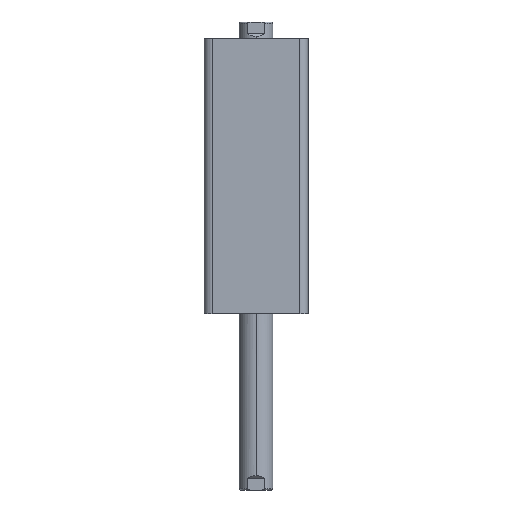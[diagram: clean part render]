
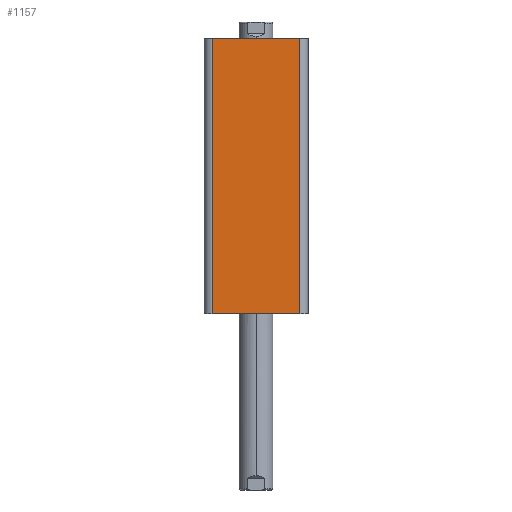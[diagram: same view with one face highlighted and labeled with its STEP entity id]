
A CAD part, left-side view. The second image highlights one B-rep face of the part: STEP entity #1157.
In plain terms, the highlighted planar face has unit normal (-1, 0, 0).
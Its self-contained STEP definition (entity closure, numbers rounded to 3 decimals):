
#165 = FACE_OUTER_BOUND ( 'NONE', #2868, .T. ) ;
#333 = DIRECTION ( 'NONE',  ( 0., 1., 0. ) ) ;
#337 = PLANE ( 'NONE',  #1997 ) ;
#341 = DIRECTION ( 'NONE',  ( 1., 0., 0. ) ) ;
#360 = CARTESIAN_POINT ( 'NONE',  ( -31., 31., 164. ) ) ;
#374 = CARTESIAN_POINT ( 'NONE',  ( -31., -26., 0. ) ) ;
#375 = CARTESIAN_POINT ( 'NONE',  ( -31., -26., 164. ) ) ;
#381 = CARTESIAN_POINT ( 'NONE',  ( -31., 26., 0. ) ) ;
#388 = CARTESIAN_POINT ( 'NONE',  ( -31., 26., 164. ) ) ;
#676 = LINE ( 'NONE', #1592, #685 ) ;
#680 = LINE ( 'NONE', #1603, #683 ) ;
#683 = VECTOR ( 'NONE', #1604, 1000. ) ;
#684 = LINE ( 'NONE', #1606, #687 ) ;
#685 = VECTOR ( 'NONE', #1605, 1000. ) ;
#686 = LINE ( 'NONE', #1608, #689 ) ;
#687 = VECTOR ( 'NONE', #1607, 1000. ) ;
#689 = VECTOR ( 'NONE', #1609, 1000. ) ;
#786 = ORIENTED_EDGE ( 'NONE', *, *, #2537, .T. ) ;
#787 = ORIENTED_EDGE ( 'NONE', *, *, #2538, .T. ) ;
#788 = ORIENTED_EDGE ( 'NONE', *, *, #2539, .F. ) ;
#789 = ORIENTED_EDGE ( 'NONE', *, *, #2540, .T. ) ;
#1044 = VERTEX_POINT ( 'NONE', #381 ) ;
#1047 = VERTEX_POINT ( 'NONE', #388 ) ;
#1050 = VERTEX_POINT ( 'NONE', #375 ) ;
#1051 = VERTEX_POINT ( 'NONE', #374 ) ;
#1157 = ADVANCED_FACE ( 'NONE', ( #165 ), #337, .F. ) ;
#1592 = CARTESIAN_POINT ( 'NONE',  ( -31., -26., 164. ) ) ;
#1603 = CARTESIAN_POINT ( 'NONE',  ( -31., 31., 0. ) ) ;
#1604 = DIRECTION ( 'NONE',  ( 0., -1., 0. ) ) ;
#1605 = DIRECTION ( 'NONE',  ( 0., 0., 1. ) ) ;
#1606 = CARTESIAN_POINT ( 'NONE',  ( -31., 31., 164. ) ) ;
#1607 = DIRECTION ( 'NONE',  ( 0., -1., 0. ) ) ;
#1608 = CARTESIAN_POINT ( 'NONE',  ( -31., 26., 164. ) ) ;
#1609 = DIRECTION ( 'NONE',  ( 0., 0., -1. ) ) ;
#1997 = AXIS2_PLACEMENT_3D ( 'NONE', #360, #341, #333 ) ;
#2537 = EDGE_CURVE ( 'NONE', #1044, #1051, #680, .T. ) ;
#2538 = EDGE_CURVE ( 'NONE', #1051, #1050, #676, .T. ) ;
#2539 = EDGE_CURVE ( 'NONE', #1047, #1050, #684, .T. ) ;
#2540 = EDGE_CURVE ( 'NONE', #1047, #1044, #686, .T. ) ;
#2868 = EDGE_LOOP ( 'NONE', ( #786, #787, #788, #789 ) ) ;
